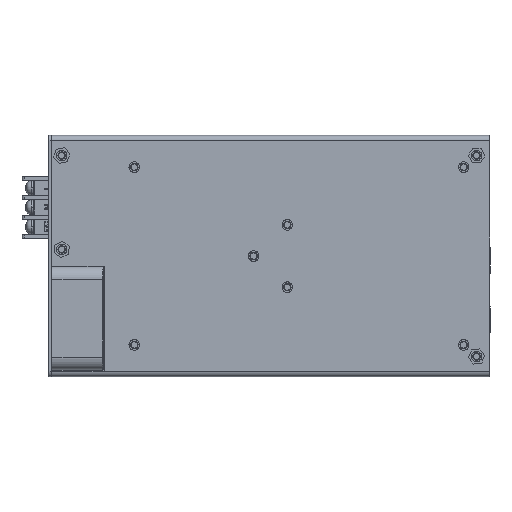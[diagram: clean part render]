
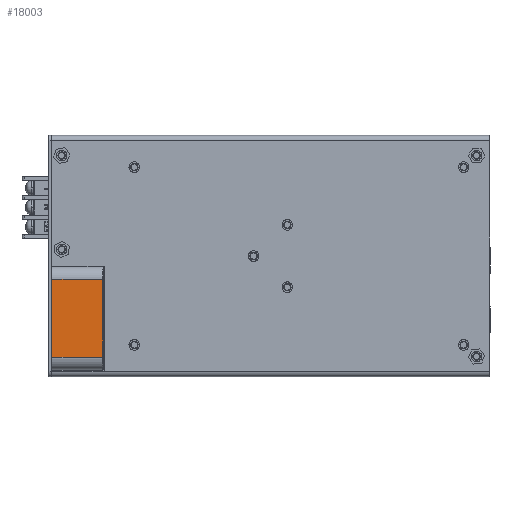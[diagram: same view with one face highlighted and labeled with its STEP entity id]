
A CAD part, front view. The second image highlights one B-rep face of the part: STEP entity #18003.
In plain terms, the highlighted planar face has unit normal (0, -1, 0).
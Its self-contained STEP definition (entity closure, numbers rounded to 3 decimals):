
#4000 = CARTESIAN_POINT ( 'NONE',  ( -80.047, -19.273, 154.5 ) ) ;
#4272 = EDGE_CURVE ( 'NONE', #17802, #7854, #61155, .T. ) ;
#4723 = EDGE_CURVE ( 'NONE', #13057, #17802, #70309, .T. ) ;
#5059 = EDGE_CURVE ( 'NONE', #7854, #9241, #43558, .T. ) ;
#7854 = VERTEX_POINT ( 'NONE', #44863 ) ;
#8490 = VECTOR ( 'NONE', #32303, 1000. ) ;
#9241 = VERTEX_POINT ( 'NONE', #21634 ) ;
#13057 = VERTEX_POINT ( 'NONE', #33220 ) ;
#15714 = DIRECTION ( 'NONE',  ( 0., -1., 0. ) ) ;
#17802 = VERTEX_POINT ( 'NONE', #37704 ) ;
#18003 = ADVANCED_FACE ( 'NONE', ( #62178 ), #69143, .T. ) ;
#21634 = CARTESIAN_POINT ( 'NONE',  ( -60.447, -19.273, 159.5 ) ) ;
#22435 = ORIENTED_EDGE ( 'NONE', *, *, #4272, .F. ) ;
#28704 = ORIENTED_EDGE ( 'NONE', *, *, #5059, .F. ) ;
#30628 = VECTOR ( 'NONE', #41392, 1000. ) ;
#32297 = EDGE_LOOP ( 'NONE', ( #74827, #28704, #22435, #33408 ) ) ;
#32303 = DIRECTION ( 'NONE',  ( 1., 0., 0. ) ) ;
#33220 = CARTESIAN_POINT ( 'NONE',  ( -60.447, -19.273, 129.5 ) ) ;
#33408 = ORIENTED_EDGE ( 'NONE', *, *, #4723, .F. ) ;
#33921 = DIRECTION ( 'NONE',  ( -1., 0., 0. ) ) ;
#35171 = EDGE_CURVE ( 'NONE', #9241, #13057, #37543, .T. ) ;
#37150 = VECTOR ( 'NONE', #33921, 1000. ) ;
#37543 = LINE ( 'NONE', #46136, #70785 ) ;
#37704 = CARTESIAN_POINT ( 'NONE',  ( -80.047, -19.273, 129.5 ) ) ;
#41392 = DIRECTION ( 'NONE',  ( 0., 0., 1. ) ) ;
#43558 = LINE ( 'NONE', #73301, #8490 ) ;
#44863 = CARTESIAN_POINT ( 'NONE',  ( -80.047, -19.273, 159.5 ) ) ;
#46136 = CARTESIAN_POINT ( 'NONE',  ( -60.447, -19.273, 154.5 ) ) ;
#61155 = LINE ( 'NONE', #4000, #30628 ) ;
#62178 = FACE_OUTER_BOUND ( 'NONE', #32297, .T. ) ;
#62740 = CARTESIAN_POINT ( 'NONE',  ( -60.247, -19.273, 164.5 ) ) ;
#63262 = DIRECTION ( 'NONE',  ( 0., 0., -1. ) ) ;
#65441 = AXIS2_PLACEMENT_3D ( 'NONE', #62740, #15714, #68882 ) ;
#68882 = DIRECTION ( 'NONE',  ( 0., 0., -1. ) ) ;
#69143 = PLANE ( 'NONE',  #65441 ) ;
#69235 = CARTESIAN_POINT ( 'NONE',  ( -60.247, -19.273, 129.5 ) ) ;
#70309 = LINE ( 'NONE', #69235, #37150 ) ;
#70785 = VECTOR ( 'NONE', #63262, 1000. ) ;
#73301 = CARTESIAN_POINT ( 'NONE',  ( -60.247, -19.273, 159.5 ) ) ;
#74827 = ORIENTED_EDGE ( 'NONE', *, *, #35171, .F. ) ;
